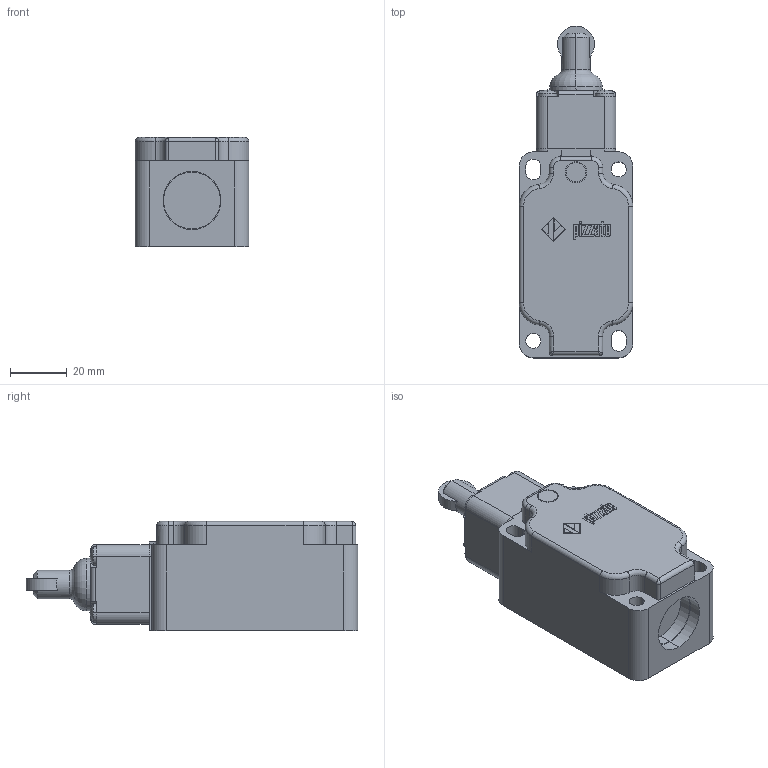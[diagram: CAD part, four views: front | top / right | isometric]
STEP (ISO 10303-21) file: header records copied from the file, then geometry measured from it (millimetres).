
FILE_DESCRIPTION (( 'STEP AP203' ), '1' );
FILE_NAME ('ZF_STEP_FP_x15_A10.step', '2010-02-26T18:41:12', ( 'fabio' ), ( '' ), 'SwSTEP 2.0', 'SolidWorks 2009', '' );
FILE_SCHEMA (( 'CONFIG_CONTROL_DESIGN' ));
Length unit declared in the file: millimetre
Products named in the file (5): Pizzato_Custodia_FP; ZF_STEP_VF_T15_A10; ZF_STEP_FP_x15_A10; Pizzato_Supporto_T15; Pizzato_Pistoncino_T15
Assembly tree (4 placements, depth 3):
  ZF_STEP_FP_x15_A10
    ZF_STEP_VF_T15_A10
      Pizzato_Supporto_T15
      Pizzato_Pistoncino_T15
    Pizzato_Custodia_FP
Bounding box: 40 x 116.8 x 38.4 mm (x, y, z)
Volume: 117137.5 mm3; surface area: 23512.4 mm2
Topology: 3 solids, 3 shells, 446 faces, 1174 edges, 773 vertices
Faces by surface type: plane 250, cylinder 100, bspline 71, torus 14, sphere 8, cone 3
Entity records: 19942 total; most frequent: CARTESIAN_POINT 8656, ORIENTED_EDGE 2344, DIRECTION 2029, EDGE_CURVE 1172, VECTOR 785, LINE 785, VERTEX_POINT 773, AXIS2_PLACEMENT_3D 622
